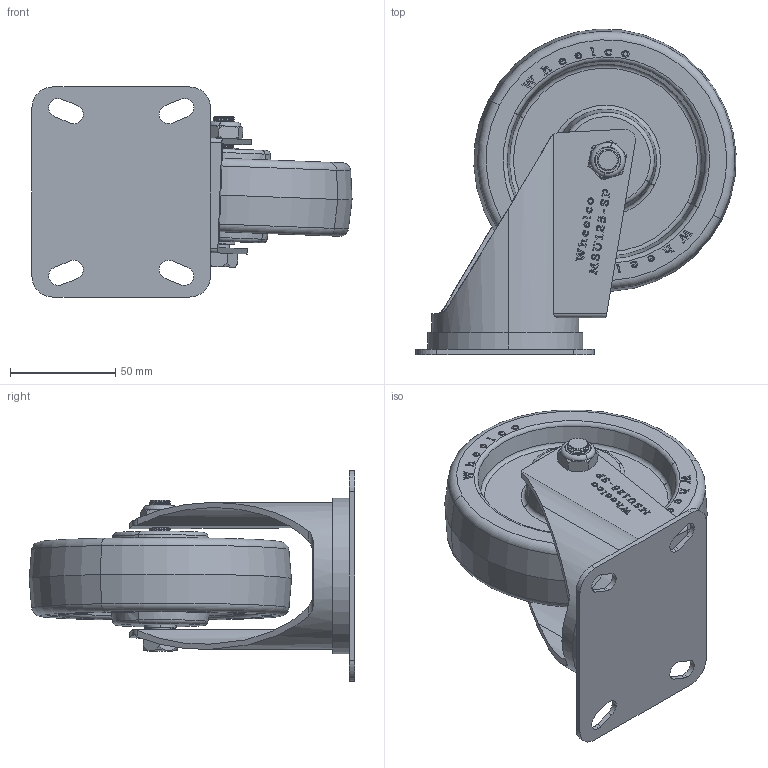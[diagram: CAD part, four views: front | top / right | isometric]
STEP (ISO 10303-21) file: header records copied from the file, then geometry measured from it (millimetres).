
FILE_DESCRIPTION (( 'STEP AP214' ), '1' );
FILE_NAME ('MSU125-SP.step', '2024-01-21T22:23:58', ( '' ), ( '' ), 'SwSTEP 2.0', 'SolidWorks 2022', '' );
FILE_SCHEMA (( 'AUTOMOTIVE_DESIGN' ));
Length unit declared in the file: millimetre
Products named in the file (7): M10X65 STAINLESS BOLT; MSU125-SP; MSU125; M10 Nyloc SS; SP15-10-47; 100X85 ANGLED
Assembly tree (6 placements, depth 2):
  MSU125-SP
    MSU125-SP
    SP15-10-47
    M10 Nyloc SS
    M10X65 STAINLESS BOLT
    MSU125
    100X85 ANGLED
Bounding box: 152.36 x 155.02 x 100 mm (x, y, z)
Volume: 390101.6 mm3; surface area: 111606.3 mm2
Topology: 6 solids, 6 shells, 1029 faces, 2808 edges, 1860 vertices
Faces by surface type: plane 529, bspline 315, cylinder 126, cone 33, torus 26
Entity records: 55887 total; most frequent: CARTESIAN_POINT 30689, ORIENTED_EDGE 5616, DIRECTION 3619, EDGE_CURVE 2808, VERTEX_POINT 1860, LINE 1779, VECTOR 1779, EDGE_LOOP 1118
